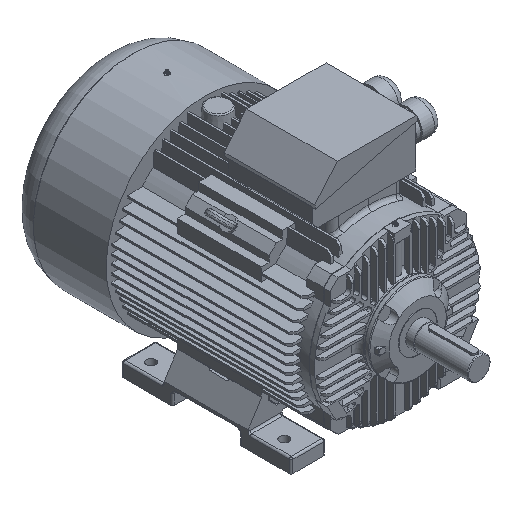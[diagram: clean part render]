
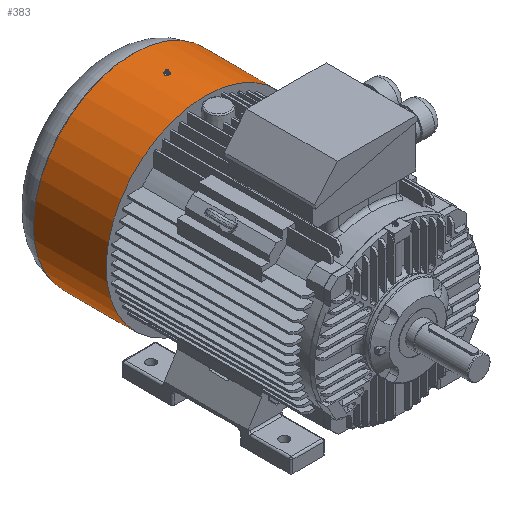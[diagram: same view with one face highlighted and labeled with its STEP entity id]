
A CAD part, isometric view. The second image highlights one B-rep face of the part: STEP entity #383.
In plain terms, the highlighted cylindrical face has radius 260 mm (diameter 520 mm), a partial arc.
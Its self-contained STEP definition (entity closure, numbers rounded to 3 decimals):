
#383 = ADVANCED_FACE( '', ( #1934, #1935 ), #1936, .T. );
#1934 = FACE_BOUND( '', #7777, .T. );
#1935 = FACE_OUTER_BOUND( '', #7778, .T. );
#1936 = CYLINDRICAL_SURFACE( '', #7779, 260. );
#7777 = EDGE_LOOP( '', ( #16124, #16125, #16126, #16127, #16128, #16129 ) );
#7778 = EDGE_LOOP( '', ( #16130, #16131, #16132, #16133 ) );
#7779 = AXIS2_PLACEMENT_3D( '', #16134, #16135, #16136 );
#16124 = ORIENTED_EDGE( '', *, *, #25755, .F. );
#16125 = ORIENTED_EDGE( '', *, *, #25756, .F. );
#16126 = ORIENTED_EDGE( '', *, *, #25757, .F. );
#16127 = ORIENTED_EDGE( '', *, *, #25758, .F. );
#16128 = ORIENTED_EDGE( '', *, *, #25759, .F. );
#16129 = ORIENTED_EDGE( '', *, *, #25760, .F. );
#16130 = ORIENTED_EDGE( '', *, *, #25007, .F. );
#16131 = ORIENTED_EDGE( '', *, *, #25761, .T. );
#16132 = ORIENTED_EDGE( '', *, *, #25762, .T. );
#16133 = ORIENTED_EDGE( '', *, *, #25009, .F. );
#16134 = CARTESIAN_POINT( '', ( 0., 780.001, 0. ) );
#16135 = DIRECTION( '', ( 0., 1., 0. ) );
#16136 = DIRECTION( '', ( 0., 0., 1. ) );
#25007 = EDGE_CURVE( '', #28385, #28387, #28388, .T. );
#25009 = EDGE_CURVE( '', #28387, #28390, #28391, .T. );
#25755 = EDGE_CURVE( '', #29735, #29736, #29737, .T. );
#25756 = EDGE_CURVE( '', #29738, #29735, #29739, .T. );
#25757 = EDGE_CURVE( '', #29740, #29738, #29741, .T. );
#25758 = EDGE_CURVE( '', #29742, #29740, #29743, .T. );
#25759 = EDGE_CURVE( '', #29744, #29742, #29745, .T. );
#25760 = EDGE_CURVE( '', #29736, #29744, #29746, .T. );
#25761 = EDGE_CURVE( '', #28385, #29747, #29748, .T. );
#25762 = EDGE_CURVE( '', #29747, #28390, #29749, .T. );
#28385 = VERTEX_POINT( '', #34076 );
#28387 = VERTEX_POINT( '', #34078 );
#28388 = LINE( '', #34079, #34080 );
#28390 = VERTEX_POINT( '', #34082 );
#28391 = CIRCLE( '', #34083, 260. );
#29735 = VERTEX_POINT( '', #37727 );
#29736 = VERTEX_POINT( '', #37728 );
#29737 = CIRCLE( '', #37729, 260. );
#29738 = VERTEX_POINT( '', #37730 );
#29739 = ELLIPSE( '', #37731, 520., 260. );
#29740 = VERTEX_POINT( '', #37732 );
#29741 = ELLIPSE( '', #37733, 520., 260. );
#29742 = VERTEX_POINT( '', #37734 );
#29743 = CIRCLE( '', #37735, 260. );
#29744 = VERTEX_POINT( '', #37736 );
#29745 = ELLIPSE( '', #37737, 520., 260. );
#29746 = ELLIPSE( '', #37738, 520., 260. );
#29747 = VERTEX_POINT( '', #37739 );
#29748 = CIRCLE( '', #37740, 260. );
#29749 = LINE( '', #37741, #37742 );
#34076 = CARTESIAN_POINT( '', ( 105.318, 679., -237.714 ) );
#34078 = CARTESIAN_POINT( '', ( 105.318, 488., -237.714 ) );
#34079 = CARTESIAN_POINT( '', ( 105.318, 1796.614, -237.714 ) );
#34080 = VECTOR( '', #47173, 1000. );
#34082 = CARTESIAN_POINT( '', ( -105.318, 488., -237.714 ) );
#34083 = AXIS2_PLACEMENT_3D( '', #47177, #47178, #47179 );
#37727 = CARTESIAN_POINT( '', ( -3.175, 582.5, 259.981 ) );
#37728 = CARTESIAN_POINT( '', ( 3.175, 582.5, 259.981 ) );
#37729 = AXIS2_PLACEMENT_3D( '', #48401, #48402, #48403 );
#37730 = CARTESIAN_POINT( '', ( -6.351, 588., 259.922 ) );
#37731 = AXIS2_PLACEMENT_3D( '', #48404, #48405, #48406 );
#37732 = CARTESIAN_POINT( '', ( -3.175, 593.5, 259.981 ) );
#37733 = AXIS2_PLACEMENT_3D( '', #48407, #48408, #48409 );
#37734 = CARTESIAN_POINT( '', ( 3.175, 593.5, 259.981 ) );
#37735 = AXIS2_PLACEMENT_3D( '', #48410, #48411, #48412 );
#37736 = CARTESIAN_POINT( '', ( 6.351, 588., 259.922 ) );
#37737 = AXIS2_PLACEMENT_3D( '', #48413, #48414, #48415 );
#37738 = AXIS2_PLACEMENT_3D( '', #48416, #48417, #48418 );
#37739 = CARTESIAN_POINT( '', ( -105.318, 679., -237.714 ) );
#37740 = AXIS2_PLACEMENT_3D( '', #48419, #48420, #48421 );
#37741 = CARTESIAN_POINT( '', ( -105.318, 1796.614, -237.714 ) );
#37742 = VECTOR( '', #48422, 1000. );
#47173 = DIRECTION( '', ( 0., -1., 0. ) );
#47177 = CARTESIAN_POINT( '', ( 0., 488., 0. ) );
#47178 = DIRECTION( '', ( 0., -1., 0. ) );
#47179 = DIRECTION( '', ( 0., 0., 1. ) );
#48401 = CARTESIAN_POINT( '', ( 0., 582.5, 0. ) );
#48402 = DIRECTION( '', ( 0., 1., 0. ) );
#48403 = DIRECTION( '', ( 0., 0., 1. ) );
#48404 = CARTESIAN_POINT( '', ( 0., 577., 0. ) );
#48405 = DIRECTION( '', ( 0.866, 0.5, 0. ) );
#48406 = DIRECTION( '', ( 0.5, -0.866, 0. ) );
#48407 = CARTESIAN_POINT( '', ( 0., 599., 0. ) );
#48408 = DIRECTION( '', ( 0.866, -0.5, 0. ) );
#48409 = DIRECTION( '', ( -0.5, -0.866, 0. ) );
#48410 = CARTESIAN_POINT( '', ( 0., 593.5, 0. ) );
#48411 = DIRECTION( '', ( 0., -1., 0. ) );
#48412 = DIRECTION( '', ( 0., 0., -1. ) );
#48413 = CARTESIAN_POINT( '', ( 0., 599., 0. ) );
#48414 = DIRECTION( '', ( -0.866, -0.5, 0. ) );
#48415 = DIRECTION( '', ( 0.5, -0.866, 0. ) );
#48416 = CARTESIAN_POINT( '', ( 0., 577., 0. ) );
#48417 = DIRECTION( '', ( -0.866, 0.5, 0. ) );
#48418 = DIRECTION( '', ( -0.5, -0.866, 0. ) );
#48419 = CARTESIAN_POINT( '', ( 0., 679., 0. ) );
#48420 = DIRECTION( '', ( 0., -1., 0. ) );
#48421 = DIRECTION( '', ( 0., 0., 1. ) );
#48422 = DIRECTION( '', ( 0., -1., 0. ) );
